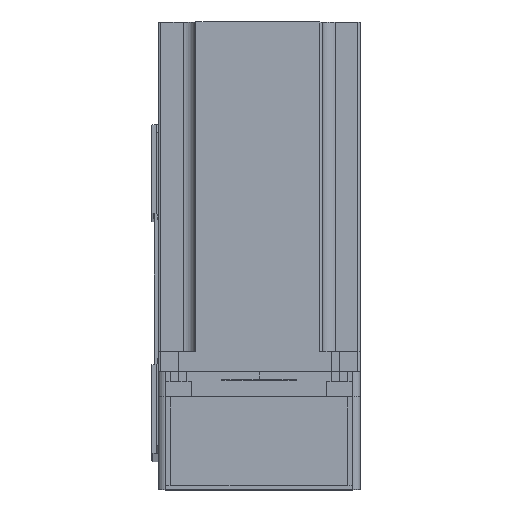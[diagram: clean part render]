
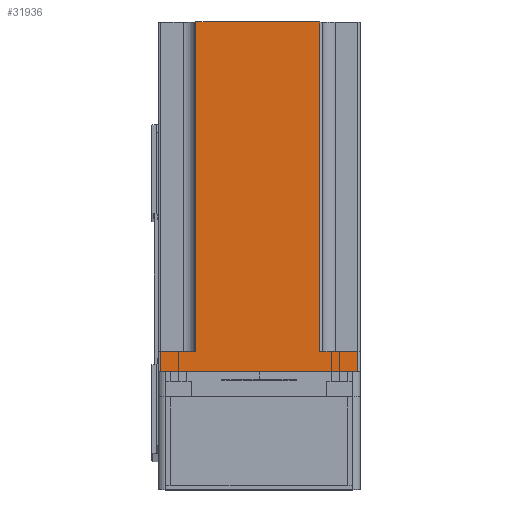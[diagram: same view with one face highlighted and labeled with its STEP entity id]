
A CAD part, top view. The second image highlights one B-rep face of the part: STEP entity #31936.
In plain terms, the highlighted planar face has unit normal (0, 0, 1) as drawn and (-1, 0, 0) by its records, which use the part's own axes.
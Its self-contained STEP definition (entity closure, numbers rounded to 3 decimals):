
#417 = VECTOR ( 'NONE', #23149, 1000. ) ;
#953 = EDGE_CURVE ( 'NONE', #2249, #38144, #41304, .T. ) ;
#2107 = VECTOR ( 'NONE', #34512, 1000. ) ;
#2249 = VERTEX_POINT ( 'NONE', #20182 ) ;
#2870 = VECTOR ( 'NONE', #19021, 1000. ) ;
#3265 = VECTOR ( 'NONE', #14966, 1000. ) ;
#5457 = EDGE_CURVE ( 'NONE', #54800, #37841, #15278, .T. ) ;
#5815 = LINE ( 'NONE', #14296, #2870 ) ;
#5833 = PLANE ( 'NONE',  #21987 ) ;
#6624 = EDGE_CURVE ( 'NONE', #40373, #37841, #15752, .T. ) ;
#7391 = VECTOR ( 'NONE', #44514, 1000. ) ;
#7650 = CARTESIAN_POINT ( 'NONE',  ( -40., 40., 8. ) ) ;
#9091 = VERTEX_POINT ( 'NONE', #10665 ) ;
#10665 = CARTESIAN_POINT ( 'NONE',  ( -40., -39., 0. ) ) ;
#11062 = CARTESIAN_POINT ( 'NONE',  ( -40., -40., 8. ) ) ;
#11902 = VECTOR ( 'NONE', #49466, 1000. ) ;
#14296 = CARTESIAN_POINT ( 'NONE',  ( -40., 25., 8. ) ) ;
#14966 = DIRECTION ( 'NONE',  ( 0., 0., 1. ) ) ;
#14990 = FACE_OUTER_BOUND ( 'NONE', #28945, .T. ) ;
#15278 = LINE ( 'NONE', #35388, #37274 ) ;
#15752 = LINE ( 'NONE', #19499, #3265 ) ;
#17610 = EDGE_CURVE ( 'NONE', #9091, #23673, #37848, .T. ) ;
#18502 = LINE ( 'NONE', #27804, #29506 ) ;
#19021 = DIRECTION ( 'NONE',  ( 0., 0., 1. ) ) ;
#19499 = CARTESIAN_POINT ( 'NONE',  ( -40., -24., 138.3 ) ) ;
#20182 = CARTESIAN_POINT ( 'NONE',  ( -40., 25., 8. ) ) ;
#20693 = CARTESIAN_POINT ( 'NONE',  ( -40., 39., 0. ) ) ;
#21047 = ORIENTED_EDGE ( 'NONE', *, *, #56600, .F. ) ;
#21987 = AXIS2_PLACEMENT_3D ( 'NONE', #24713, #57425, #29436 ) ;
#23149 = DIRECTION ( 'NONE',  ( 0., 0., 1. ) ) ;
#23673 = VERTEX_POINT ( 'NONE', #39659 ) ;
#24713 = CARTESIAN_POINT ( 'NONE',  ( -40., -40., 138.3 ) ) ;
#25994 = DIRECTION ( 'NONE',  ( 0., -1., 0. ) ) ;
#27088 = LINE ( 'NONE', #11062, #2107 ) ;
#27804 = CARTESIAN_POINT ( 'NONE',  ( -40., 39., 138.3 ) ) ;
#28516 = EDGE_CURVE ( 'NONE', #38144, #57305, #18502, .T. ) ;
#28835 = EDGE_CURVE ( 'NONE', #57305, #9091, #32380, .T. ) ;
#28945 = EDGE_LOOP ( 'NONE', ( #37743, #29668, #48165, #21047, #38583, #40063, #47919, #45772 ) ) ;
#29436 = DIRECTION ( 'NONE',  ( 0., 0., -1. ) ) ;
#29506 = VECTOR ( 'NONE', #41728, 1000. ) ;
#29668 = ORIENTED_EDGE ( 'NONE', *, *, #6624, .T. ) ;
#31936 = ADVANCED_FACE ( 'NONE', ( #14990 ), #5833, .F. ) ;
#32380 = LINE ( 'NONE', #53711, #7391 ) ;
#34512 = DIRECTION ( 'NONE',  ( 0., -1., 0. ) ) ;
#35388 = CARTESIAN_POINT ( 'NONE',  ( -40., -40., 138.3 ) ) ;
#37042 = CARTESIAN_POINT ( 'NONE',  ( -40., -39., 138.3 ) ) ;
#37274 = VECTOR ( 'NONE', #25994, 1000. ) ;
#37743 = ORIENTED_EDGE ( 'NONE', *, *, #46677, .F. ) ;
#37841 = VERTEX_POINT ( 'NONE', #41988 ) ;
#37848 = LINE ( 'NONE', #37042, #417 ) ;
#38144 = VERTEX_POINT ( 'NONE', #58055 ) ;
#38583 = ORIENTED_EDGE ( 'NONE', *, *, #953, .T. ) ;
#39659 = CARTESIAN_POINT ( 'NONE',  ( -40., -39., 8. ) ) ;
#39844 = CARTESIAN_POINT ( 'NONE',  ( -40., -24., 8. ) ) ;
#40063 = ORIENTED_EDGE ( 'NONE', *, *, #28516, .T. ) ;
#40373 = VERTEX_POINT ( 'NONE', #39844 ) ;
#41304 = LINE ( 'NONE', #7650, #11902 ) ;
#41728 = DIRECTION ( 'NONE',  ( 0., 0., -1. ) ) ;
#41988 = CARTESIAN_POINT ( 'NONE',  ( -40., -24., 138.3 ) ) ;
#44514 = DIRECTION ( 'NONE',  ( 0., -1., 0. ) ) ;
#45772 = ORIENTED_EDGE ( 'NONE', *, *, #17610, .T. ) ;
#46677 = EDGE_CURVE ( 'NONE', #40373, #23673, #27088, .T. ) ;
#47919 = ORIENTED_EDGE ( 'NONE', *, *, #28835, .T. ) ;
#48165 = ORIENTED_EDGE ( 'NONE', *, *, #5457, .F. ) ;
#49466 = DIRECTION ( 'NONE',  ( 0., 1., 0. ) ) ;
#50536 = CARTESIAN_POINT ( 'NONE',  ( -40., 25., 138.3 ) ) ;
#53711 = CARTESIAN_POINT ( 'NONE',  ( -40., -40., 0. ) ) ;
#54800 = VERTEX_POINT ( 'NONE', #50536 ) ;
#56600 = EDGE_CURVE ( 'NONE', #2249, #54800, #5815, .T. ) ;
#57305 = VERTEX_POINT ( 'NONE', #20693 ) ;
#57425 = DIRECTION ( 'NONE',  ( 1., 0., 0. ) ) ;
#58055 = CARTESIAN_POINT ( 'NONE',  ( -40., 39., 8. ) ) ;
